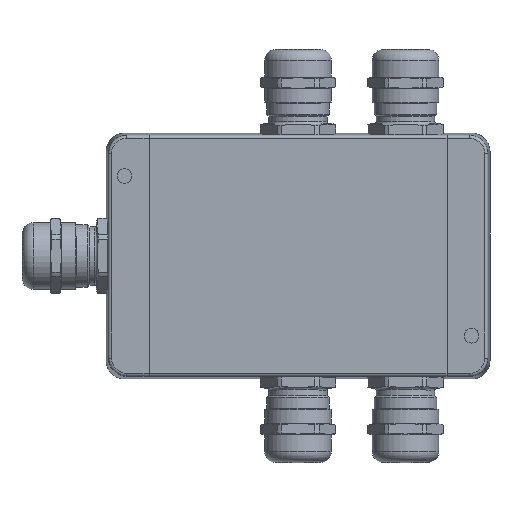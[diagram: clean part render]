
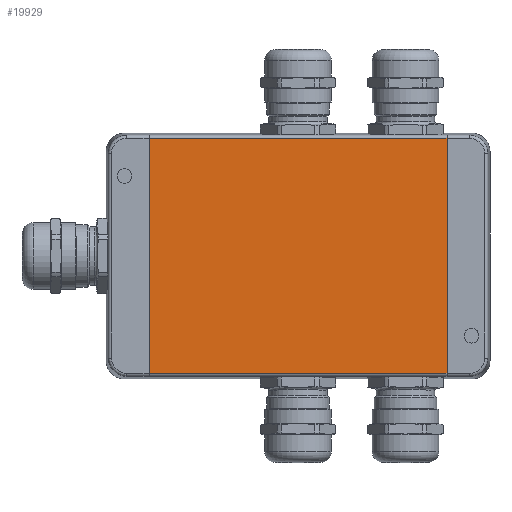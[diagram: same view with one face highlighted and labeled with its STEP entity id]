
A CAD part, top view. The second image highlights one B-rep face of the part: STEP entity #19929.
In plain terms, the highlighted planar face has unit normal (0, 0, 1).
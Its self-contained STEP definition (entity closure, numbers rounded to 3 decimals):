
#1551=PLANE('',#21427);
#3014=FACE_OUTER_BOUND('',#4158,.T.);
#4158=EDGE_LOOP('',(#14763,#14764,#14765,#14766));
#5328=LINE('',#29067,#7015);
#5346=LINE('',#29228,#7033);
#5350=LINE('',#29237,#7037);
#5355=LINE('',#29251,#7042);
#7015=VECTOR('',#23371,76.555);
#7033=VECTOR('',#23433,97.);
#7037=VECTOR('',#23443,97.);
#7042=VECTOR('',#23462,76.555);
#9249=VERTEX_POINT('',#29064);
#9250=VERTEX_POINT('',#29066);
#9270=VERTEX_POINT('',#29224);
#9273=VERTEX_POINT('',#29235);
#11340=EDGE_CURVE('',#9250,#9249,#5328,.T.);
#11372=EDGE_CURVE('',#9250,#9270,#5346,.T.);
#11377=EDGE_CURVE('',#9273,#9249,#5350,.T.);
#11384=EDGE_CURVE('',#9273,#9270,#5355,.T.);
#14763=ORIENTED_EDGE('',*,*,#11372,.F.);
#14764=ORIENTED_EDGE('',*,*,#11340,.T.);
#14765=ORIENTED_EDGE('',*,*,#11377,.F.);
#14766=ORIENTED_EDGE('',*,*,#11384,.T.);
#19929=ADVANCED_FACE('',(#3014),#1551,.F.);
#21427=AXIS2_PLACEMENT_3D('',#29250,#23460,#23461);
#23371=DIRECTION('',(0.,1.,0.));
#23433=DIRECTION('',(-1.,0.,0.));
#23443=DIRECTION('',(1.,0.,0.));
#23460=DIRECTION('center_axis',(0.,0.,-1.));
#23461=DIRECTION('ref_axis',(1.,0.,0.));
#23462=DIRECTION('',(0.,-1.,0.));
#29064=CARTESIAN_POINT('',(507.663,417.208,56.5));
#29066=CARTESIAN_POINT('',(507.663,340.653,56.5));
#29067=CARTESIAN_POINT('',(507.663,340.653,56.5));
#29224=CARTESIAN_POINT('',(410.663,340.653,56.5));
#29228=CARTESIAN_POINT('',(507.663,340.653,56.5));
#29235=CARTESIAN_POINT('',(410.663,417.208,56.5));
#29237=CARTESIAN_POINT('',(410.663,417.208,56.5));
#29250=CARTESIAN_POINT('Origin',(459.163,378.93,56.5));
#29251=CARTESIAN_POINT('',(410.663,417.208,56.5));
